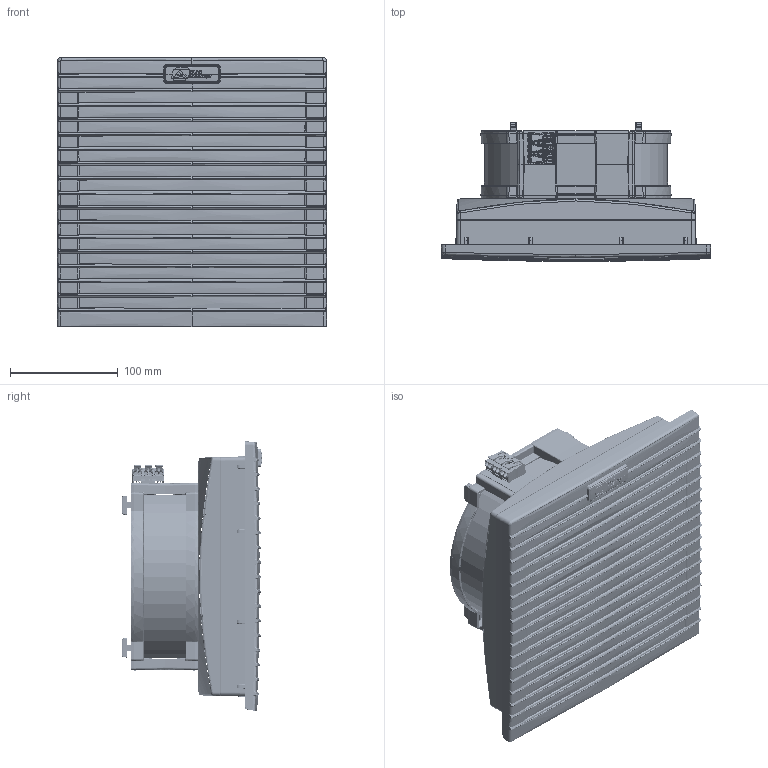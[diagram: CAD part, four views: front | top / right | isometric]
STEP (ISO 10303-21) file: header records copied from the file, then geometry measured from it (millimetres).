
FILE_DESCRIPTION(/* description */ (''),/* implementation_level */ '2;1');
FILE_NAME(/* name */ 'ATV430~1',/* time_stamp */ '2019-02-19T16:45:02+01:00',/* author */ (''),/* organization */ (''),/* preprocessor_version */ 'ST-DEVELOPER v16.5',/* originating_system */ '',/* authorisation */ '');
FILE_SCHEMA (('AUTOMOTIVE_DESIGN'));
Products named in the file (1): Document
Bounding box: 250 x 130 x 250 mm (x, y, z)
Volume: 1106955.8 mm3; surface area: 676287.9 mm2
Topology: 3 solids, 3885 shells, 5481 faces, 23674 edges, 21850 vertices
Faces by surface type: bspline 3960, plane 1521
Entity records: 445613 total; most frequent: CARTESIAN_POINT 299035, ORIENTED_EDGE 27693, EDGE_CURVE 23466, VERTEX_POINT 21859, B_SPLINE_CURVE_WITH_KNOTS 20371, EDGE_LOOP 5577, ADVANCED_FACE 5481, FACE_OUTER_BOUND 5481
